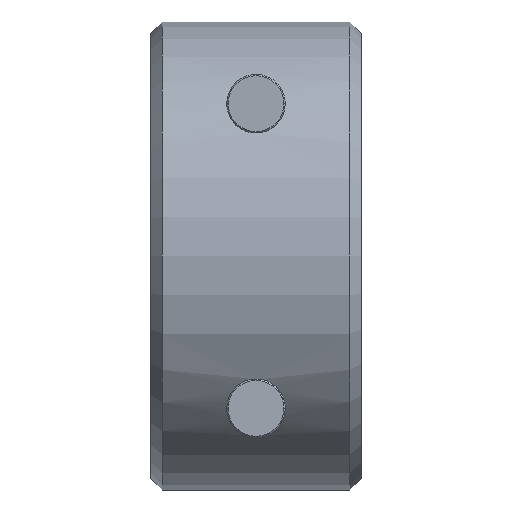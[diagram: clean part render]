
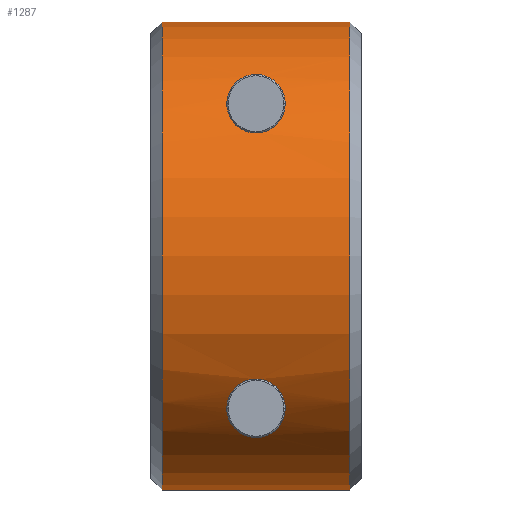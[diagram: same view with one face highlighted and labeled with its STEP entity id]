
A CAD part, front view. The second image highlights one B-rep face of the part: STEP entity #1287.
In plain terms, the highlighted cylindrical face has radius 10 mm (diameter 20 mm), a partial arc.
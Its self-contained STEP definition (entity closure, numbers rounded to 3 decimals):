
#810=DIRECTION('',(1.,0.,0.));
#811=VECTOR('',#810,8.);
#812=CARTESIAN_POINT('',(-4.,0.5,-9.987));
#813=LINE('',#812,#811);
#814=DIRECTION('',(1.,0.,0.));
#815=VECTOR('',#814,8.);
#816=CARTESIAN_POINT('',(-4.,0.5,9.987));
#817=LINE('',#816,#815);
#818=CARTESIAN_POINT('',(1.25,7.599,6.5));
#819=CARTESIAN_POINT('',(1.25,7.559,6.547));
#820=CARTESIAN_POINT('',(1.245,7.477,6.641));
#821=CARTESIAN_POINT('',(1.221,7.353,6.779));
#822=CARTESIAN_POINT('',(1.183,7.228,6.911));
#823=CARTESIAN_POINT('',(1.132,7.106,7.037));
#824=CARTESIAN_POINT('',(1.064,6.98,7.162));
#825=CARTESIAN_POINT('',(0.973,6.846,7.29));
#826=CARTESIAN_POINT('',(0.85,6.701,7.424));
#827=CARTESIAN_POINT('',(0.691,6.559,7.549));
#828=CARTESIAN_POINT('',(0.486,6.428,7.661));
#829=CARTESIAN_POINT('',(0.234,6.335,7.738));
#830=CARTESIAN_POINT('',(-0.04,6.308,7.76));
#831=CARTESIAN_POINT('',(-0.317,6.357,7.719));
#832=CARTESIAN_POINT('',(-0.56,6.469,7.626));
#833=CARTESIAN_POINT('',(-0.75,6.607,7.507));
#834=CARTESIAN_POINT('',(-0.898,6.753,7.376));
#835=CARTESIAN_POINT('',(-1.007,6.893,7.246));
#836=CARTESIAN_POINT('',(-1.087,7.02,7.123));
#837=CARTESIAN_POINT('',(-1.146,7.138,7.004));
#838=CARTESIAN_POINT('',(-1.192,7.253,6.885));
#839=CARTESIAN_POINT('',(-1.225,7.369,6.76));
#840=CARTESIAN_POINT('',(-1.245,7.486,6.631));
#841=CARTESIAN_POINT('',(-1.25,7.562,6.544));
#842=CARTESIAN_POINT('',(-1.25,7.599,6.5));
#844=CARTESIAN_POINT('',(-1.25,7.599,6.5));
#845=CARTESIAN_POINT('',(-1.25,7.717,6.363));
#846=CARTESIAN_POINT('',(-1.206,7.925,6.104));
#847=CARTESIAN_POINT('',(-1.038,8.169,5.772));
#848=CARTESIAN_POINT('',(-0.788,8.347,5.509));
#849=CARTESIAN_POINT('',(-0.496,8.458,5.336));
#850=CARTESIAN_POINT('',(-0.164,8.514,5.246));
#851=CARTESIAN_POINT('',(0.164,8.514,5.246));
#852=CARTESIAN_POINT('',(0.496,8.458,5.336));
#853=CARTESIAN_POINT('',(0.788,8.347,5.509));
#854=CARTESIAN_POINT('',(1.038,8.169,5.772));
#855=CARTESIAN_POINT('',(1.205,7.926,6.104));
#856=CARTESIAN_POINT('',(1.25,7.717,6.362));
#857=CARTESIAN_POINT('',(1.25,7.599,6.5));
#859=CARTESIAN_POINT('',(1.25,7.599,-6.5));
#860=CARTESIAN_POINT('',(1.25,7.717,-6.363));
#861=CARTESIAN_POINT('',(1.206,7.925,-6.104));
#862=CARTESIAN_POINT('',(1.038,8.169,-5.772));
#863=CARTESIAN_POINT('',(0.788,8.347,-5.509));
#864=CARTESIAN_POINT('',(0.496,8.458,-5.336));
#865=CARTESIAN_POINT('',(0.164,8.514,-5.246));
#866=CARTESIAN_POINT('',(-0.164,8.514,
-5.246));
#867=CARTESIAN_POINT('',(-0.496,8.458,
-5.336));
#868=CARTESIAN_POINT('',(-0.788,8.347,
-5.509));
#869=CARTESIAN_POINT('',(-1.038,8.169,-5.772));
#870=CARTESIAN_POINT('',(-1.205,7.926,-6.104));
#871=CARTESIAN_POINT('',(-1.25,7.717,-6.362));
#872=CARTESIAN_POINT('',(-1.25,7.599,-6.5));
#874=CARTESIAN_POINT('',(-1.25,7.599,-6.5));
#875=CARTESIAN_POINT('',(-1.25,7.559,-6.548));
#876=CARTESIAN_POINT('',(-1.245,7.477,-6.642));
#877=CARTESIAN_POINT('',(-1.221,7.351,-6.78));
#878=CARTESIAN_POINT('',(-1.182,7.226,-6.913));
#879=CARTESIAN_POINT('',(-1.13,7.103,-7.04));
#880=CARTESIAN_POINT('',(-1.062,6.977,-7.165));
#881=CARTESIAN_POINT('',(-0.971,6.842,
-7.294));
#882=CARTESIAN_POINT('',(-0.846,6.698,
-7.426));
#883=CARTESIAN_POINT('',(-0.688,6.557,
-7.551));
#884=CARTESIAN_POINT('',(-0.484,6.427,
-7.661));
#885=CARTESIAN_POINT('',(-0.233,6.335,
-7.738));
#886=CARTESIAN_POINT('',(0.039,6.308,-7.76));
#887=CARTESIAN_POINT('',(0.314,6.356,-7.72));
#888=CARTESIAN_POINT('',(0.555,6.467,-7.628));
#889=CARTESIAN_POINT('',(0.746,6.604,-7.51));
#890=CARTESIAN_POINT('',(0.894,6.749,-7.38));
#891=CARTESIAN_POINT('',(1.004,6.889,-7.249));
#892=CARTESIAN_POINT('',(1.085,7.016,-7.126));
#893=CARTESIAN_POINT('',(1.145,7.135,-7.008));
#894=CARTESIAN_POINT('',(1.191,7.251,-6.887));
#895=CARTESIAN_POINT('',(1.225,7.368,-6.762));
#896=CARTESIAN_POINT('',(1.245,7.485,-6.632));
#897=CARTESIAN_POINT('',(1.25,7.561,-6.544));
#898=CARTESIAN_POINT('',(1.25,7.599,-6.5));
#912=CARTESIAN_POINT('',(4.,0.,0.));
#913=DIRECTION('',(1.,0.,0.));
#914=DIRECTION('',(0.,0.05,-0.999));
#915=AXIS2_PLACEMENT_3D('',#912,#913,#914);
#1000=CARTESIAN_POINT('',(-4.,0.,0.));
#1001=DIRECTION('',(1.,0.,0.));
#1002=DIRECTION('',(0.,0.05,-0.999));
#1003=AXIS2_PLACEMENT_3D('',#1000,#1001,#1002);
#1056=CARTESIAN_POINT('',(-4.,0.5,-9.987));
#1057=CARTESIAN_POINT('',(-4.,0.5,9.987));
#1058=VERTEX_POINT('',#1056);
#1059=VERTEX_POINT('',#1057);
#1064=CARTESIAN_POINT('',(4.,0.5,-9.987));
#1065=CARTESIAN_POINT('',(4.,0.5,9.987));
#1066=VERTEX_POINT('',#1064);
#1067=VERTEX_POINT('',#1065);
#1092=VERTEX_POINT('',#818);
#1093=VERTEX_POINT('',#842);
#1094=VERTEX_POINT('',#859);
#1095=VERTEX_POINT('',#872);
#1263=CARTESIAN_POINT('',(-4.5,0.,0.));
#1264=DIRECTION('',(1.,0.,0.));
#1265=DIRECTION('',(0.,0.,-1.));
#1266=AXIS2_PLACEMENT_3D('',#1263,#1264,#1265);
#1267=CYLINDRICAL_SURFACE('',#1266,10.);
#1268=ORIENTED_EDGE('',*,*,#1206,.T.);
#1270=ORIENTED_EDGE('',*,*,#1269,.T.);
#1271=ORIENTED_EDGE('',*,*,#1167,.F.);
#1273=ORIENTED_EDGE('',*,*,#1272,.F.);
#1274=EDGE_LOOP('',(#1268,#1270,#1271,#1273));
#1275=FACE_OUTER_BOUND('',#1274,.F.);
#1277=ORIENTED_EDGE('',*,*,#1276,.F.);
#1278=ORIENTED_EDGE('',*,*,#1253,.F.);
#1279=EDGE_LOOP('',(#1277,#1278));
#1280=FACE_BOUND('',#1279,.F.);
#1282=ORIENTED_EDGE('',*,*,#1281,.F.);
#1284=ORIENTED_EDGE('',*,*,#1283,.F.);
#1285=EDGE_LOOP('',(#1282,#1284));
#1286=FACE_BOUND('',#1285,.F.);
#1287=ADVANCED_FACE('',(#1275,#1280,#1286),#1267,.T.);
#843=B_SPLINE_CURVE_WITH_KNOTS('',3,(#818,#819,#820,#821,#822,#823,#824,#825,
#826,#827,#828,#829,#830,#831,#832,#833,#834,#835,#836,#837,#838,#839,#840,#841,
#842),.UNSPECIFIED.,.F.,.F.,(4,1,1,1,1,1,1,1,1,1,1,1,1,1,1,1,1,1,1,1,1,1,4),(
0.,0.045,0.091,0.136,0.182,
0.227,0.273,0.318,0.364,
0.409,0.455,0.5,0.545,0.591,
0.636,0.682,0.727,0.773,
0.818,0.864,0.909,0.955,1.),
.UNSPECIFIED.);
#858=B_SPLINE_CURVE_WITH_KNOTS('',3,(#844,#845,#846,#847,#848,#849,#850,#851,
#852,#853,#854,#855,#856,#857),.UNSPECIFIED.,.F.,.F.,(4,1,1,1,1,1,1,1,1,1,1,4),(
0.,0.091,0.182,0.273,0.364,
0.455,0.545,0.636,0.727,
0.818,0.909,1.),.UNSPECIFIED.);
#873=B_SPLINE_CURVE_WITH_KNOTS('',3,(#859,#860,#861,#862,#863,#864,#865,#866,
#867,#868,#869,#870,#871,#872),.UNSPECIFIED.,.F.,.F.,(4,1,1,1,1,1,1,1,1,1,1,4),(
0.,0.091,0.182,0.273,0.364,
0.455,0.545,0.636,0.727,
0.818,0.909,1.),.UNSPECIFIED.);
#899=B_SPLINE_CURVE_WITH_KNOTS('',3,(#874,#875,#876,#877,#878,#879,#880,#881,
#882,#883,#884,#885,#886,#887,#888,#889,#890,#891,#892,#893,#894,#895,#896,#897,
#898),.UNSPECIFIED.,.F.,.F.,(4,1,1,1,1,1,1,1,1,1,1,1,1,1,1,1,1,1,1,1,1,1,4),(
0.,0.045,0.091,0.136,0.182,
0.227,0.273,0.318,0.364,
0.409,0.455,0.5,0.545,0.591,
0.636,0.682,0.727,0.773,
0.818,0.864,0.909,0.955,1.),
.UNSPECIFIED.);
#916=CIRCLE('',#915,10.);
#1004=CIRCLE('',#1003,10.);
#1167=EDGE_CURVE('',#1059,#1067,#817,.T.);
#1206=EDGE_CURVE('',#1058,#1066,#813,.T.);
#1253=EDGE_CURVE('',#1093,#1092,#858,.T.);
#1269=EDGE_CURVE('',#1066,#1067,#916,.T.);
#1272=EDGE_CURVE('',#1058,#1059,#1004,.T.);
#1276=EDGE_CURVE('',#1092,#1093,#843,.T.);
#1281=EDGE_CURVE('',#1094,#1095,#873,.T.);
#1283=EDGE_CURVE('',#1095,#1094,#899,.T.);
